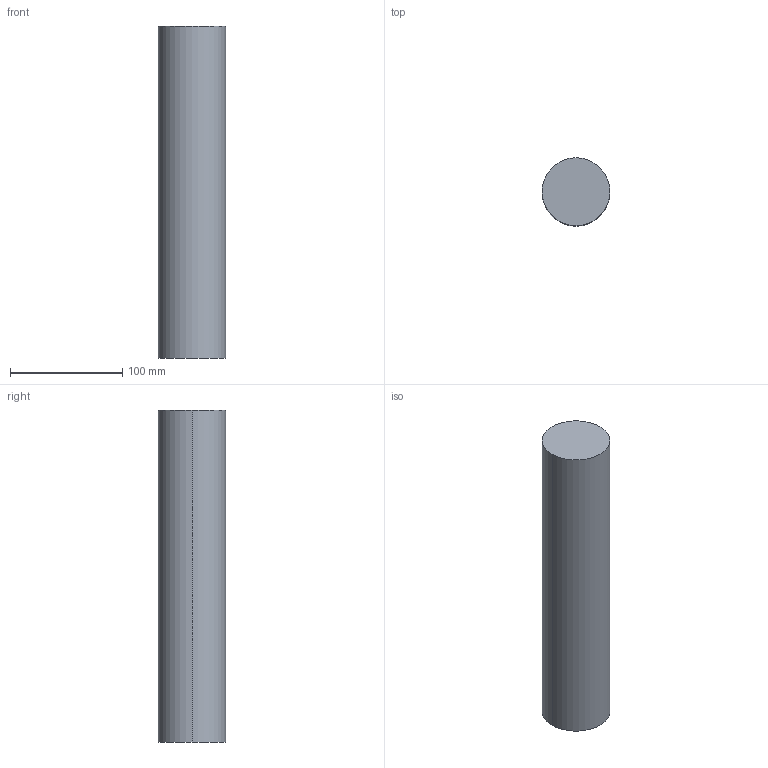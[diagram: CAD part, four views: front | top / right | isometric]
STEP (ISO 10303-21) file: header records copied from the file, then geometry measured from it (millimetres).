
FILE_DESCRIPTION (( 'STEP AP203' ), '1' );
FILE_NAME ('ƒpƒCƒv605.STEP', '2022-05-30T00:57:14', ( '' ), ( '' ), 'SwSTEP 2.0', 'SolidWorks 2017', '' );
FILE_SCHEMA (( 'CONFIG_CONTROL_DESIGN' ));
Length unit declared in the file: millimetre
Products named in the file (1): パイプ605
Bounding box: 60.5 x 60.5 x 296 mm (x, y, z)
Volume: 850927.1 mm3; surface area: 62009.1 mm2
Topology: 1 solids, 1 shells, 4 faces, 6 edges, 4 vertices
Faces by surface type: cylinder 2, plane 2
Entity records: 171 total; most frequent: DIRECTION 20, CARTESIAN_POINT 15, ORIENTED_EDGE 12, AXIS2_PLACEMENT_3D 9, PERSON_AND_ORGANIZATION 8, EDGE_CURVE 6, LOCAL_TIME 5, CC_DESIGN_PERSON_AND_ORGANIZATION_ASSIGNMENT 5
